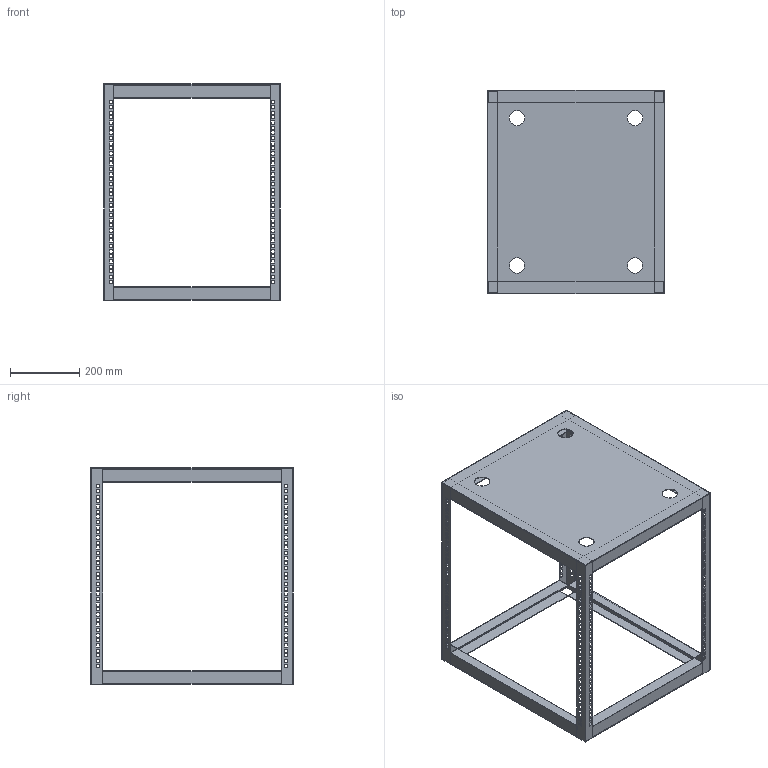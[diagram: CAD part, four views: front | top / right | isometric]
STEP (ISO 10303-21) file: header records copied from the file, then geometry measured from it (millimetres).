
FILE_DESCRIPTION(('Open CASCADE Model'),'2;1');
FILE_NAME('Open CASCADE Shape Model','2026-10-07T15:44:20',('Author'),( 'Open CASCADE'),'Open CASCADE STEP processor 7.8','Open CASCADE 7.8' ,'Unknown');
FILE_SCHEMA(('AUTOMOTIVE_DESIGN { 1 0 10303 214 1 1 1 1 }'));
Length unit declared in the file: millimetre
Products named in the file (14): VEVOR_SPT_504_12A_visual_reference; front_left_12U_post; front_right_12U_post; rear_left_12U_post; rear_right_12U_post; front_bottom_crossbeam; rear_bottom_crossbeam; left_bottom_depth_beam; right_bottom_depth_beam; front_top_crossbeam; rear_top_crossbeam; left_top_depth_beam; right_top_depth_beam; top_cover_with_four_cable_openings
Assembly tree (13 placements, depth 2):
  VEVOR_SPT_504_12A_visual_reference
    front_left_12U_post
    front_right_12U_post
    rear_left_12U_post
    rear_right_12U_post
    front_bottom_crossbeam
    rear_bottom_crossbeam
    left_bottom_depth_beam
    right_bottom_depth_beam
    front_top_crossbeam
    rear_top_crossbeam
    left_top_depth_beam
    right_top_depth_beam
    top_cover_with_four_cable_openings
Bounding box: 510 x 585 x 625 mm (x, y, z)
Volume: 1623411.8 mm3; surface area: 1680425.6 mm2
Topology: 13 solids, 13 shells, 1274 faces, 3744 edges, 2496 vertices
Faces by surface type: plane 1270, cylinder 4
Full cylindrical faces by diameter (mm): 44 x4
Entity records: 90581 total; most frequent: CARTESIAN_POINT 16058, DIRECTION 12774, LINE 10174, VECTOR 10174, ORIENTED_EDGE 7488, PCURVE 7488, DEFINITIONAL_REPRESENTATION 7488, EDGE_CURVE 3744
